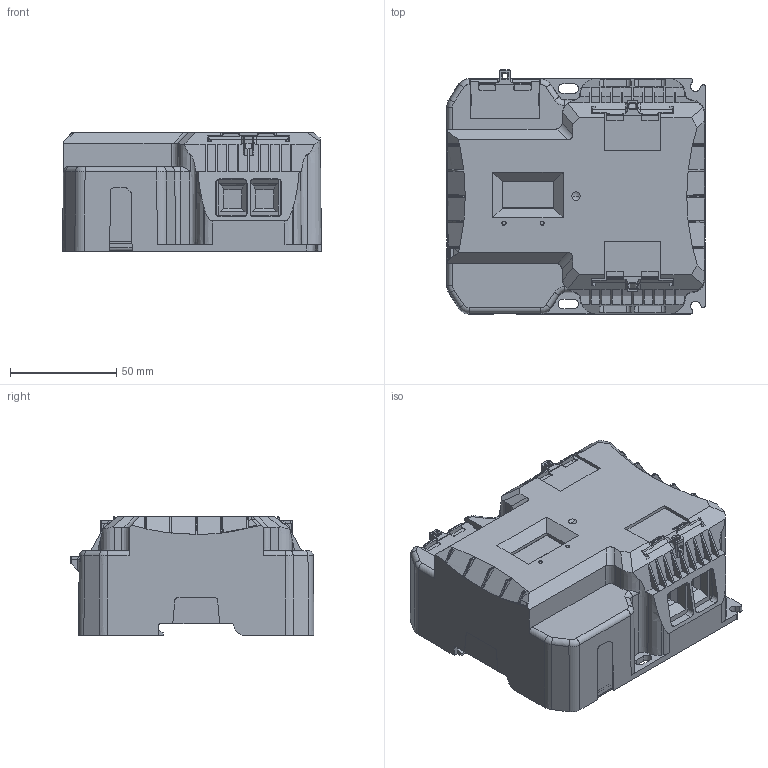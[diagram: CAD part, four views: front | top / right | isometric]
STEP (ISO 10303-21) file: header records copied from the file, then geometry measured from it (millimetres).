
FILE_DESCRIPTION(('Creo Elements/Direct Modeling STEP Export'),'2;1');
FILE_NAME('BBox.stp','2023-06-23T17:11:03',(''),(''),'Creo Elements/Direct Modeling STEP processor for AP214 (Solid Model)','Creo Elements/Direct Modeling 20.3D 14-Nov-2022 (C) Parametric Technology GmbH','');
FILE_SCHEMA(('AUTOMOTIVE_DESIGN { 1 0 10303 214 1 1 1 1 }'));
Products named in the file (2): BlackBox_DBCM100
Assembly tree (1 placements, depth 2):
  BlackBox_DBCM100
    BlackBox_DBCM100
Bounding box: 121.97 x 114.97 x 55.9 mm (x, y, z)
Volume: 228305.9 mm3; surface area: 161901.6 mm2
Topology: 1 solids, 5 shells, 3037 faces, 8494 edges, 5470 vertices
Faces by surface type: plane 1890, cylinder 617, cone 317, torus 111, bspline 61, sphere 41
Entity records: 122724 total; most frequent: CARTESIAN_POINT 26803, ORIENTED_EDGE 16900, DIRECTION 14828, EDGE_CURVE 8446, VECTOR 5580, LINE 5580, VERTEX_POINT 5471, AXIS2_PLACEMENT_3D 4624
